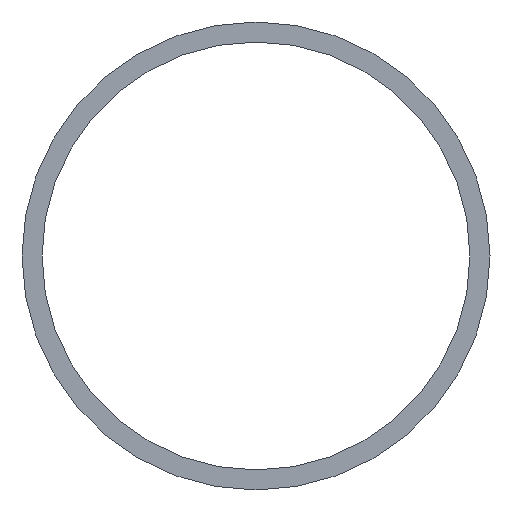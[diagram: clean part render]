
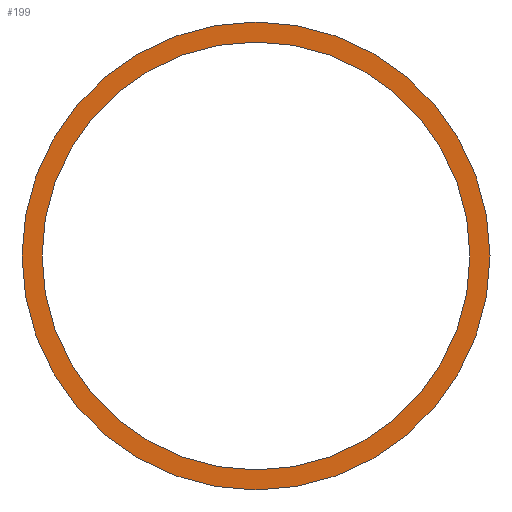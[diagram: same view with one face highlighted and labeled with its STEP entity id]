
A CAD part, left-side view. The second image highlights one B-rep face of the part: STEP entity #199.
In plain terms, the highlighted planar face has unit normal (-1, 0, 0).
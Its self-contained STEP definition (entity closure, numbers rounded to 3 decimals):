
#5 = CARTESIAN_POINT ( 'NONE',  ( -3000., 0., 0. ) ) ;
#8 = ORIENTED_EDGE ( 'NONE', *, *, #218, .F. ) ;
#12 = DIRECTION ( 'NONE',  ( 0., 1., 0. ) ) ;
#13 = CARTESIAN_POINT ( 'NONE',  ( -3000., 0., 0. ) ) ;
#16 = CARTESIAN_POINT ( 'NONE',  ( -3000., 16., 0. ) ) ;
#29 = VERTEX_POINT ( 'NONE', #16 ) ;
#33 = VERTEX_POINT ( 'NONE', #87 ) ;
#39 = AXIS2_PLACEMENT_3D ( 'NONE', #5, #207, #281 ) ;
#40 = DIRECTION ( 'NONE',  ( -1., 0., 0. ) ) ;
#45 = EDGE_CURVE ( 'NONE', #29, #33, #124, .T. ) ;
#51 = FACE_BOUND ( 'NONE', #190, .T. ) ;
#63 = EDGE_LOOP ( 'NONE', ( #8, #121 ) ) ;
#77 = CARTESIAN_POINT ( 'NONE',  ( -3000., 17.5, 0. ) ) ;
#78 = EDGE_CURVE ( 'NONE', #258, #235, #111, .T. ) ;
#83 = DIRECTION ( 'NONE',  ( -1., 0., 0. ) ) ;
#84 = AXIS2_PLACEMENT_3D ( 'NONE', #214, #280, #12 ) ;
#85 = ORIENTED_EDGE ( 'NONE', *, *, #45, .F. ) ;
#87 = CARTESIAN_POINT ( 'NONE',  ( -3000., -16., 0. ) ) ;
#93 = CIRCLE ( 'NONE', #245, 16. ) ;
#95 = FACE_OUTER_BOUND ( 'NONE', #63, .T. ) ;
#96 = CARTESIAN_POINT ( 'NONE',  ( -3000., 0., 0. ) ) ;
#99 = AXIS2_PLACEMENT_3D ( 'NONE', #13, #272, #154 ) ;
#111 = CIRCLE ( 'NONE', #99, 17.5 ) ;
#121 = ORIENTED_EDGE ( 'NONE', *, *, #78, .F. ) ;
#122 = DIRECTION ( 'NONE',  ( 0., 1., 0. ) ) ;
#124 = CIRCLE ( 'NONE', #231, 16. ) ;
#136 = ORIENTED_EDGE ( 'NONE', *, *, #251, .F. ) ;
#148 = CARTESIAN_POINT ( 'NONE',  ( -3000., 0., 0. ) ) ;
#154 = DIRECTION ( 'NONE',  ( 0., 1., 0. ) ) ;
#163 = CARTESIAN_POINT ( 'NONE',  ( -3000., -17.5, 0. ) ) ;
#164 = CIRCLE ( 'NONE', #39, 17.5 ) ;
#185 = DIRECTION ( 'NONE',  ( 0., 1., 0. ) ) ;
#189 = PLANE ( 'NONE',  #84 ) ;
#190 = EDGE_LOOP ( 'NONE', ( #85, #136 ) ) ;
#199 = ADVANCED_FACE ( 'NONE', ( #51, #95 ), #189, .F. ) ;
#207 = DIRECTION ( 'NONE',  ( 1., 0., 0. ) ) ;
#214 = CARTESIAN_POINT ( 'NONE',  ( -3000., 0., 0. ) ) ;
#218 = EDGE_CURVE ( 'NONE', #235, #258, #164, .T. ) ;
#231 = AXIS2_PLACEMENT_3D ( 'NONE', #148, #40, #122 ) ;
#235 = VERTEX_POINT ( 'NONE', #77 ) ;
#245 = AXIS2_PLACEMENT_3D ( 'NONE', #96, #83, #185 ) ;
#251 = EDGE_CURVE ( 'NONE', #33, #29, #93, .T. ) ;
#258 = VERTEX_POINT ( 'NONE', #163 ) ;
#272 = DIRECTION ( 'NONE',  ( 1., 0., 0. ) ) ;
#280 = DIRECTION ( 'NONE',  ( 1., 0., 0. ) ) ;
#281 = DIRECTION ( 'NONE',  ( 0., 1., 0. ) ) ;
